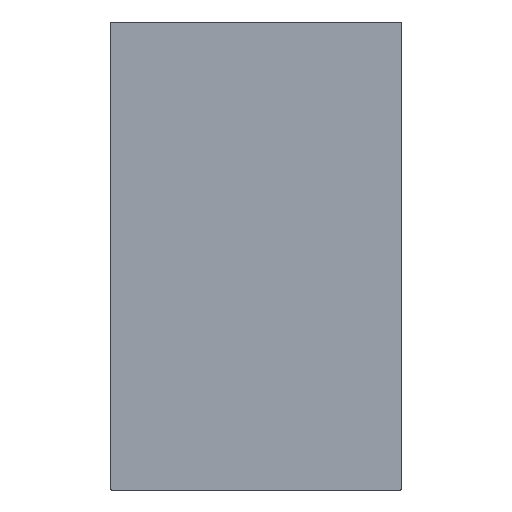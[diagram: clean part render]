
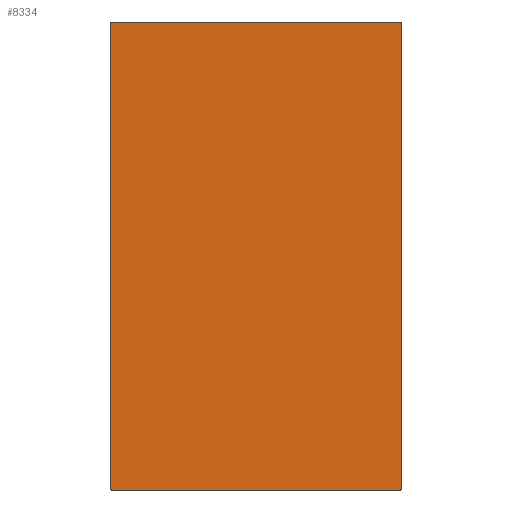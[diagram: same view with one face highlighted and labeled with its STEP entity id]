
A CAD part, front view. The second image highlights one B-rep face of the part: STEP entity #8334.
In plain terms, the highlighted planar face has unit normal (0, -1, 0).
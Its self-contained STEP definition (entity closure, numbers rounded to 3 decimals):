
#87=PLANE('',#9657);
#764=LINE('',#15297,#1236);
#767=LINE('',#15305,#1239);
#769=LINE('',#15314,#1241);
#772=LINE('',#15338,#1244);
#1236=VECTOR('',#12666,10.);
#1239=VECTOR('',#12675,10.);
#1241=VECTOR('',#12687,10.);
#1244=VECTOR('',#12730,10.);
#2042=FACE_OUTER_BOUND('',#2588,.T.);
#2588=EDGE_LOOP('',(#7744,#7745,#7746,#7747,#7748,#7749,#7750,#7751));
#3344=CIRCLE('',#9628,2.);
#3345=CIRCLE('',#9631,2.);
#3346=CIRCLE('',#9635,2.);
#3347=CIRCLE('',#9639,2.);
#4034=VERTEX_POINT('',#15289);
#4035=VERTEX_POINT('',#15291);
#4036=VERTEX_POINT('',#15295);
#4037=VERTEX_POINT('',#15299);
#4038=VERTEX_POINT('',#15303);
#4039=VERTEX_POINT('',#15308);
#4040=VERTEX_POINT('',#15313);
#4041=VERTEX_POINT('',#15317);
#5265=EDGE_CURVE('',#4034,#4035,#3344,.T.);
#5268=EDGE_CURVE('',#4034,#4036,#764,.T.);
#5270=EDGE_CURVE('',#4037,#4036,#3345,.T.);
#5272=EDGE_CURVE('',#4037,#4038,#767,.T.);
#5274=EDGE_CURVE('',#4039,#4038,#3346,.T.);
#5275=EDGE_CURVE('',#4040,#4035,#769,.T.);
#5277=EDGE_CURVE('',#4040,#4041,#3347,.T.);
#5279=EDGE_CURVE('',#4039,#4041,#772,.T.);
#7744=ORIENTED_EDGE('',*,*,#5274,.F.);
#7745=ORIENTED_EDGE('',*,*,#5279,.T.);
#7746=ORIENTED_EDGE('',*,*,#5277,.F.);
#7747=ORIENTED_EDGE('',*,*,#5275,.T.);
#7748=ORIENTED_EDGE('',*,*,#5265,.F.);
#7749=ORIENTED_EDGE('',*,*,#5268,.T.);
#7750=ORIENTED_EDGE('',*,*,#5270,.F.);
#7751=ORIENTED_EDGE('',*,*,#5272,.T.);
#8334=ADVANCED_FACE('',(#2042),#87,.T.);
#9628=AXIS2_PLACEMENT_3D('',#15292,#12660,#12661);
#9631=AXIS2_PLACEMENT_3D('',#15301,#12670,#12671);
#9635=AXIS2_PLACEMENT_3D('',#15310,#12681,#12682);
#9639=AXIS2_PLACEMENT_3D('',#15318,#12691,#12692);
#9657=AXIS2_PLACEMENT_3D('',#15337,#12728,#12729);
#12660=DIRECTION('center_axis',(0.,1.,0.));
#12661=DIRECTION('ref_axis',(-0.707,0.,0.707));
#12666=DIRECTION('',(0.,0.,-1.));
#12670=DIRECTION('center_axis',(0.,1.,0.));
#12671=DIRECTION('ref_axis',(-0.707,0.,-0.707));
#12675=DIRECTION('',(1.,0.,0.));
#12681=DIRECTION('center_axis',(0.,1.,0.));
#12682=DIRECTION('ref_axis',(0.707,0.,-0.707));
#12687=DIRECTION('',(-1.,0.,0.));
#12691=DIRECTION('center_axis',(0.,1.,0.));
#12692=DIRECTION('ref_axis',(0.707,0.,0.707));
#12728=DIRECTION('center_axis',(0.,-1.,0.));
#12729=DIRECTION('ref_axis',(0.,0.,-1.));
#12730=DIRECTION('',(0.,0.,1.));
#15289=CARTESIAN_POINT('',(-223.5,-9.,357.));
#15291=CARTESIAN_POINT('',(-221.5,-9.,359.));
#15292=CARTESIAN_POINT('Origin',(-221.5,-9.,357.));
#15295=CARTESIAN_POINT('',(-223.5,-9.,-357.));
#15297=CARTESIAN_POINT('',(-223.5,-9.,-359.));
#15299=CARTESIAN_POINT('',(-221.5,-9.,-359.));
#15301=CARTESIAN_POINT('Origin',(-221.5,-9.,-357.));
#15303=CARTESIAN_POINT('',(221.5,-9.,-359.));
#15305=CARTESIAN_POINT('',(223.5,-9.,-359.));
#15308=CARTESIAN_POINT('',(223.5,-9.,-357.));
#15310=CARTESIAN_POINT('Origin',(221.5,-9.,-357.));
#15313=CARTESIAN_POINT('',(221.5,-9.,359.));
#15314=CARTESIAN_POINT('',(-223.5,-9.,359.));
#15317=CARTESIAN_POINT('',(223.5,-9.,357.));
#15318=CARTESIAN_POINT('Origin',(221.5,-9.,357.));
#15337=CARTESIAN_POINT('Origin',(0.,-9.,0.));
#15338=CARTESIAN_POINT('',(223.5,-9.,359.));
